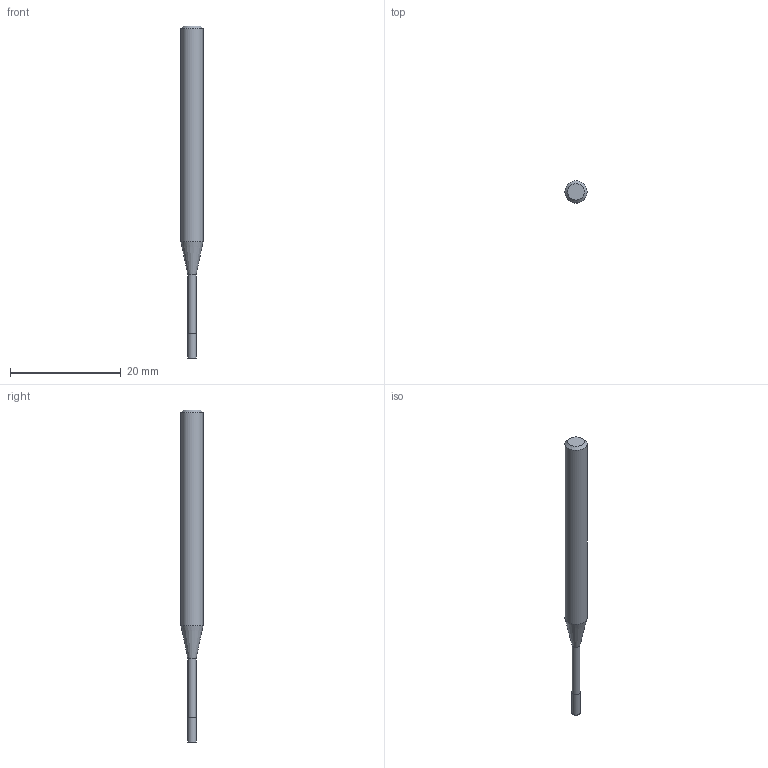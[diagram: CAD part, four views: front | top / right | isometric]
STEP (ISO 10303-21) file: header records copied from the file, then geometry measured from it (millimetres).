
FILE_DESCRIPTION((''),'2;1');
FILE_NAME('C:\Users\nsx150\Desktop\RSE230_20210427\01-00644-01515 RSE230 D1_5X4_5X15.step','2021-05-07T14:53:29',(''),(''),'STEP Write','Mastercam 2021 ... CNC Software, Inc.','');
FILE_SCHEMA(('AUTOMOTIVE_DESIGN'));
Length unit declared in the file: millimetre
Products named in the file (1): None
Bounding box: 4 x 4 x 60 mm (x, y, z)
Volume: 551.5 mm3; surface area: 625.4 mm2
Topology: 2 solids, 2 shells, 9 faces, 12 edges, 7 vertices
Faces by surface type: plane 4, cylinder 3, cone 2
Full cylindrical faces by diameter (mm): 1.45 x1, 1.5 x1, 4 x1
Entity records: 211 total; most frequent: DIRECTION 36, CARTESIAN_POINT 25, AXIS2_PLACEMENT_3D 18, ORIENTED_EDGE 14, EDGE_LOOP 14, STYLED_ITEM 12, ADVANCED_FACE 9, FACE_BOUND 8
